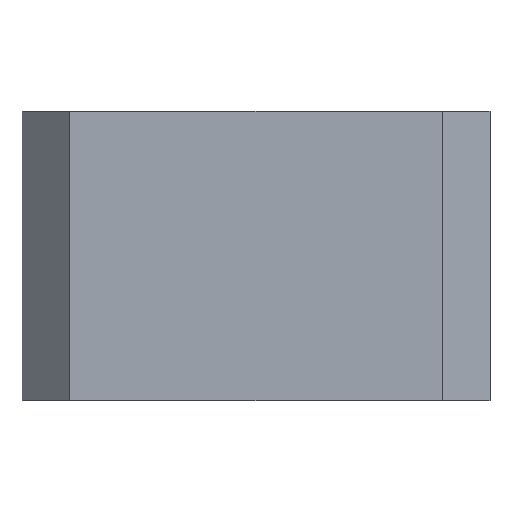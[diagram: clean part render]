
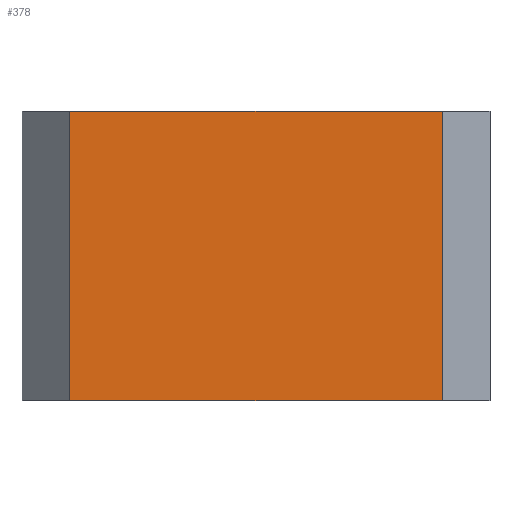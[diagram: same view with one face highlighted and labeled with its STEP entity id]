
A CAD part, left-side view. The second image highlights one B-rep face of the part: STEP entity #378.
In plain terms, the highlighted planar face has unit normal (-1, 0, 0).
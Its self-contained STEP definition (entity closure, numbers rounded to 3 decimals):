
#33 = CARTESIAN_POINT ( 'NONE',  ( -20.75, -22.185, 28. ) ) ;
#64 = EDGE_CURVE ( 'NONE', #430, #349, #488, .T. ) ;
#116 = CARTESIAN_POINT ( 'NONE',  ( -20.75, -22.185, 28. ) ) ;
#140 = EDGE_CURVE ( 'NONE', #430, #697, #423, .T. ) ;
#166 = CARTESIAN_POINT ( 'NONE',  ( -20.75, 13.807, 0. ) ) ;
#194 = DIRECTION ( 'NONE',  ( 1., 0., 0. ) ) ;
#199 = CARTESIAN_POINT ( 'NONE',  ( -20.75, -22.185, 0. ) ) ;
#245 = FACE_OUTER_BOUND ( 'NONE', #365, .T. ) ;
#254 = DIRECTION ( 'NONE',  ( 0., -1., 0. ) ) ;
#256 = ORIENTED_EDGE ( 'NONE', *, *, #64, .F. ) ;
#260 = VECTOR ( 'NONE', #521, 1000. ) ;
#274 = LINE ( 'NONE', #553, #730 ) ;
#310 = VECTOR ( 'NONE', #637, 1000. ) ;
#322 = VECTOR ( 'NONE', #254, 1000. ) ;
#330 = CARTESIAN_POINT ( 'NONE',  ( -20.75, 13.807, 28. ) ) ;
#349 = VERTEX_POINT ( 'NONE', #672 ) ;
#365 = EDGE_LOOP ( 'NONE', ( #648, #757, #256, #819 ) ) ;
#378 = ADVANCED_FACE ( 'NONE', ( #245 ), #572, .F. ) ;
#407 = DIRECTION ( 'NONE',  ( 0., 0., -1. ) ) ;
#423 = LINE ( 'NONE', #330, #260 ) ;
#424 = DIRECTION ( 'NONE',  ( 0., 0., -1. ) ) ;
#430 = VERTEX_POINT ( 'NONE', #477 ) ;
#451 = AXIS2_PLACEMENT_3D ( 'NONE', #116, #194, #407 ) ;
#469 = CARTESIAN_POINT ( 'NONE',  ( -20.75, -22.185, 0. ) ) ;
#477 = CARTESIAN_POINT ( 'NONE',  ( -20.75, 13.807, 28. ) ) ;
#488 = LINE ( 'NONE', #33, #322 ) ;
#521 = DIRECTION ( 'NONE',  ( 0., 0., -1. ) ) ;
#553 = CARTESIAN_POINT ( 'NONE',  ( -20.75, -22.185, 28. ) ) ;
#559 = LINE ( 'NONE', #199, #310 ) ;
#569 = VERTEX_POINT ( 'NONE', #469 ) ;
#572 = PLANE ( 'NONE',  #451 ) ;
#637 = DIRECTION ( 'NONE',  ( 0., -1., 0. ) ) ;
#648 = ORIENTED_EDGE ( 'NONE', *, *, #804, .T. ) ;
#672 = CARTESIAN_POINT ( 'NONE',  ( -20.75, -22.185, 28. ) ) ;
#697 = VERTEX_POINT ( 'NONE', #166 ) ;
#706 = EDGE_CURVE ( 'NONE', #349, #569, #274, .T. ) ;
#730 = VECTOR ( 'NONE', #424, 1000. ) ;
#757 = ORIENTED_EDGE ( 'NONE', *, *, #706, .F. ) ;
#804 = EDGE_CURVE ( 'NONE', #697, #569, #559, .T. ) ;
#819 = ORIENTED_EDGE ( 'NONE', *, *, #140, .T. ) ;
